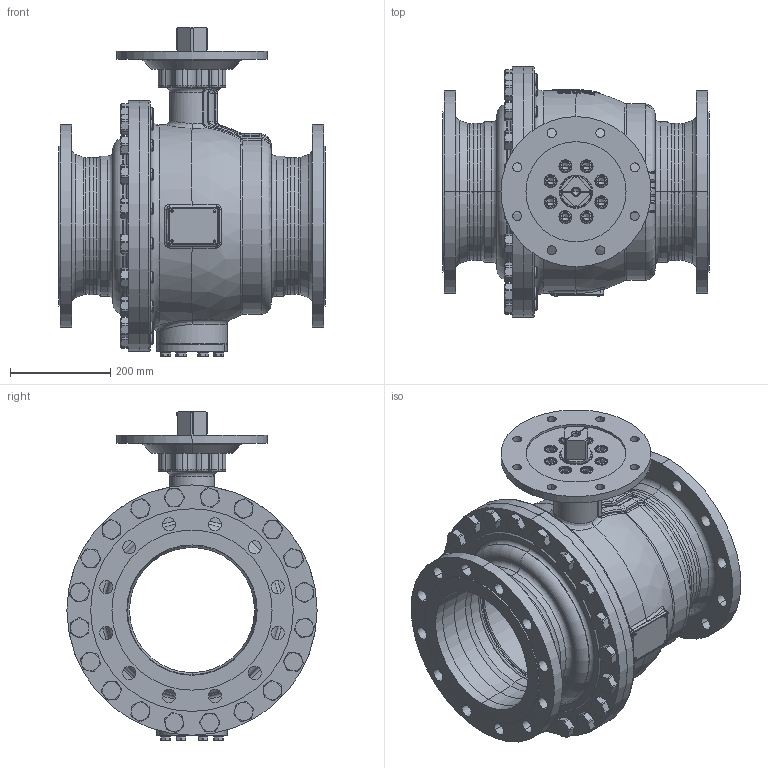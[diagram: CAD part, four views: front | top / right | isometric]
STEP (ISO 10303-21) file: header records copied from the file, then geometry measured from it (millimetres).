
FILE_DESCRIPTION((''),'2;1');
FILE_NAME('KHI-F_250_PN016-F25-4_SW0001','2026-02-05T14:20:39',('fischerkl'),('KLINGER'),'CREO PARAMETRIC BY PTC INC, 2023014','CREO PARAMETRIC BY PTC INC, 2023014','');
FILE_SCHEMA(('CONFIG_CONTROL_DESIGN'));
Products named in the file (1): KHI-F_250_PN016-F25-4_SW0001
Bounding box: 533 x 500 x 657.8 mm (x, y, z)
Volume: 22382983.4 mm3; surface area: 3467804.7 mm2
Topology: 1 solids, 4 shells, 3398 faces, 8637 edges, 5388 vertices
Faces by surface type: plane 1727, cylinder 806, cone 416, torus 310, bspline 97, sphere 42
Entity records: 139500 total; most frequent: CARTESIAN_POINT 58428, ORIENTED_EDGE 17198, DIRECTION 16700, EDGE_CURVE 8599, AXIS2_PLACEMENT_3D 6341, VERTEX_POINT 5388, VECTOR 4018, LINE 4018
